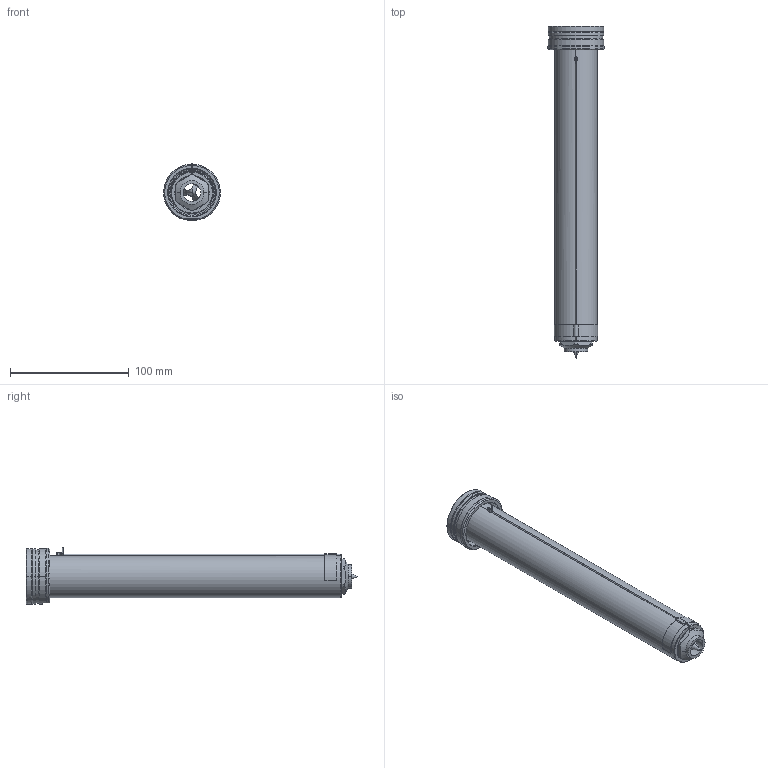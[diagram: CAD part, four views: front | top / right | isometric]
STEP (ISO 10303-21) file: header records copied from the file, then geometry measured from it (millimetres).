
FILE_DESCRIPTION((''),'2;1');
FILE_NAME('EO16_PG-BL_WR_260_SW','2024-02-19T11:20:03',('sundharh'),(''),'CREO PARAMETRIC BY PTC INC, 2023154','CREO PARAMETRIC BY PTC INC, 2023154','');
FILE_SCHEMA(('CONFIG_CONTROL_DESIGN'));
Length unit declared in the file: millimetre
Products named in the file (1): EO16_PG-BL_WR_260_SW
Bounding box: 47.97 x 280 x 48 mm (x, y, z)
Volume: 227183.9 mm3; surface area: 54781.2 mm2
Topology: 1 solids, 1 shells, 200 faces, 526 edges, 325 vertices
Faces by surface type: cylinder 79, plane 59, cone 39, torus 14, bspline 7, sphere 2
Entity records: 7447 total; most frequent: CARTESIAN_POINT 2406, DIRECTION 1113, ORIENTED_EDGE 1040, EDGE_CURVE 520, AXIS2_PLACEMENT_3D 464, VERTEX_POINT 325, CIRCLE 271, EDGE_LOOP 217
